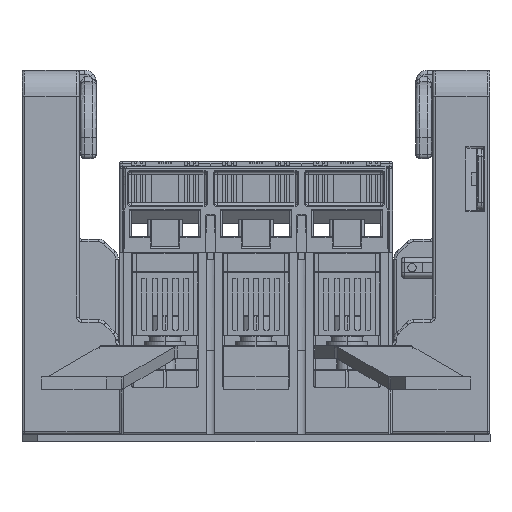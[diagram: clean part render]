
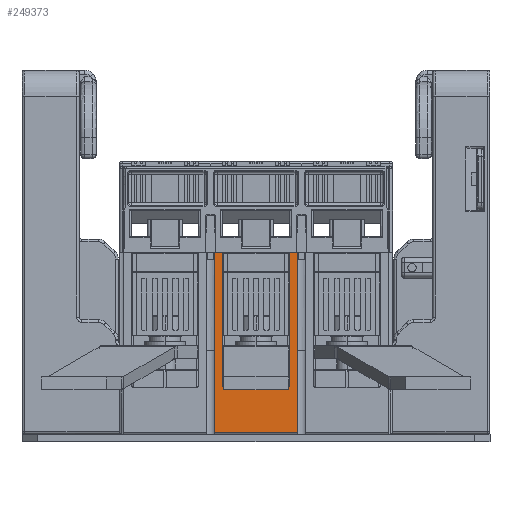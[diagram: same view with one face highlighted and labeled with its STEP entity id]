
A CAD part, front view. The second image highlights one B-rep face of the part: STEP entity #249373.
In plain terms, the highlighted planar face has unit normal (0, -1, 0).
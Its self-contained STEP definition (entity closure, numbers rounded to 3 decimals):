
#7811 = CARTESIAN_POINT ( 'NONE',  ( -35.429, -152.525, -52.001 ) ) ;
#10872 = LINE ( 'NONE', #10873, #121028 ) ;
#10873 = CARTESIAN_POINT ( 'NONE',  ( -39.429, -152.525, -0.001 ) ) ;
#10905 = LINE ( 'NONE', #10952, #121012 ) ;
#10912 = DIRECTION ( 'NONE',  ( 0., 0., 1. ) ) ;
#10920 = LINE ( 'NONE', #10923, #121031 ) ;
#10923 = CARTESIAN_POINT ( 'NONE',  ( -10.429, -152.525, -0.001 ) ) ;
#10925 = DIRECTION ( 'NONE',  ( 1., 0., 0. ) ) ;
#10945 = LINE ( 'NONE', #10948, #121036 ) ;
#10948 = CARTESIAN_POINT ( 'NONE',  ( -75.929, -152.525, -0.001 ) ) ;
#10950 = DIRECTION ( 'NONE',  ( -1., 0., 0. ) ) ;
#10952 = CARTESIAN_POINT ( 'NONE',  ( -10.429, -152.525, -0.001 ) ) ;
#10956 = DIRECTION ( 'NONE',  ( 0., 0., -1. ) ) ;
#10957 = LINE ( 'NONE', #10959, #121038 ) ;
#10959 = CARTESIAN_POINT ( 'NONE',  ( -36.429, -152.525, -0.001 ) ) ;
#10960 = DIRECTION ( 'NONE',  ( 0., 0., -1. ) ) ;
#10961 = LINE ( 'NONE', #10963, #121039 ) ;
#10963 = CARTESIAN_POINT ( 'NONE',  ( -10.429, -152.525, -69.501 ) ) ;
#10964 = DIRECTION ( 'NONE',  ( -1., 0., 0. ) ) ;
#10966 = LINE ( 'NONE', #10967, #121040 ) ;
#10967 = CARTESIAN_POINT ( 'NONE',  ( -7.429, -152.525, -0.001 ) ) ;
#10968 = DIRECTION ( 'NONE',  ( 0., 0., 1. ) ) ;
#46725 = EDGE_LOOP ( 'NONE', ( #50097, #50102, #50106, #50109, #50112, #50118, #50123, #50126, #50133, #50139 ) ) ;
#50097 = ORIENTED_EDGE ( 'NONE', *, *, #143275, .T. ) ;
#50102 = ORIENTED_EDGE ( 'NONE', *, *, #143277, .T. ) ;
#50106 = ORIENTED_EDGE ( 'NONE', *, *, #141285, .F. ) ;
#50109 = ORIENTED_EDGE ( 'NONE', *, *, #141545, .F. ) ;
#50112 = ORIENTED_EDGE ( 'NONE', *, *, #141454, .F. ) ;
#50118 = ORIENTED_EDGE ( 'NONE', *, *, #143279, .F. ) ;
#50123 = ORIENTED_EDGE ( 'NONE', *, *, #143265, .F. ) ;
#50126 = ORIENTED_EDGE ( 'NONE', *, *, #143261, .F. ) ;
#50133 = ORIENTED_EDGE ( 'NONE', *, *, #143280, .F. ) ;
#50139 = ORIENTED_EDGE ( 'NONE', *, *, #143283, .T. ) ;
#50699 = PLANE ( 'NONE',  #56333 ) ;
#50802 = FACE_OUTER_BOUND ( 'NONE', #46725, .T. ) ;
#50886 = CARTESIAN_POINT ( 'NONE',  ( -10.429, -152.525, -0.001 ) ) ;
#50890 = DIRECTION ( 'NONE',  ( 0., 1., 0. ) ) ;
#50895 = DIRECTION ( 'NONE',  ( -1., 0., 0. ) ) ;
#56333 = AXIS2_PLACEMENT_3D ( 'NONE', #50886, #50890, #50895 ) ;
#80876 = VERTEX_POINT ( 'NONE', #235883 ) ;
#81668 = VERTEX_POINT ( 'NONE', #155503 ) ;
#83273 = VERTEX_POINT ( 'NONE', #7811 ) ;
#85195 = VERTEX_POINT ( 'NONE', #126493 ) ;
#101503 = VERTEX_POINT ( 'NONE', #209816 ) ;
#101555 = VERTEX_POINT ( 'NONE', #207483 ) ;
#101695 = VERTEX_POINT ( 'NONE', #208086 ) ;
#102189 = VERTEX_POINT ( 'NONE', #204703 ) ;
#102373 = VERTEX_POINT ( 'NONE', #205268 ) ;
#102464 = VERTEX_POINT ( 'NONE', #205559 ) ;
#120134 = CIRCLE ( 'NONE', #120140, 1. ) ;
#120140 = AXIS2_PLACEMENT_3D ( 'NONE', #211483, #211486, #211489 ) ;
#120209 = CIRCLE ( 'NONE', #120213, 1. ) ;
#120213 = AXIS2_PLACEMENT_3D ( 'NONE', #211896, #211897, #211899 ) ;
#120234 = VECTOR ( 'NONE', #212118, 1000. ) ;
#121012 = VECTOR ( 'NONE', #10956, 1000. ) ;
#121028 = VECTOR ( 'NONE', #10912, 1000. ) ;
#121031 = VECTOR ( 'NONE', #10925, 1000. ) ;
#121036 = VECTOR ( 'NONE', #10950, 1000. ) ;
#121038 = VECTOR ( 'NONE', #10960, 1000. ) ;
#121039 = VECTOR ( 'NONE', #10964, 1000. ) ;
#121040 = VECTOR ( 'NONE', #10968, 1000. ) ;
#126493 = CARTESIAN_POINT ( 'NONE',  ( -10.429, -152.525, -51.001 ) ) ;
#141285 = EDGE_CURVE ( 'NONE', #80876, #85195, #120134, .T. ) ;
#141454 = EDGE_CURVE ( 'NONE', #81668, #83273, #120209, .T. ) ;
#141545 = EDGE_CURVE ( 'NONE', #83273, #80876, #212047, .T. ) ;
#143261 = EDGE_CURVE ( 'NONE', #102464, #102373, #10872, .T. ) ;
#143265 = EDGE_CURVE ( 'NONE', #102373, #101695, #10920, .T. ) ;
#143275 = EDGE_CURVE ( 'NONE', #101555, #101503, #10945, .T. ) ;
#143277 = EDGE_CURVE ( 'NONE', #101503, #85195, #10905, .T. ) ;
#143279 = EDGE_CURVE ( 'NONE', #101695, #81668, #10957, .T. ) ;
#143280 = EDGE_CURVE ( 'NONE', #102189, #102464, #10961, .T. ) ;
#143283 = EDGE_CURVE ( 'NONE', #102189, #101555, #10966, .T. ) ;
#155503 = CARTESIAN_POINT ( 'NONE',  ( -36.429, -152.525, -51.001 ) ) ;
#204703 = CARTESIAN_POINT ( 'NONE',  ( -7.429, -152.525, -69.501 ) ) ;
#205268 = CARTESIAN_POINT ( 'NONE',  ( -39.429, -152.525, -0.001 ) ) ;
#205559 = CARTESIAN_POINT ( 'NONE',  ( -39.429, -152.525, -69.501 ) ) ;
#207483 = CARTESIAN_POINT ( 'NONE',  ( -7.429, -152.525, -0.001 ) ) ;
#208086 = CARTESIAN_POINT ( 'NONE',  ( -36.429, -152.525, -0.001 ) ) ;
#209816 = CARTESIAN_POINT ( 'NONE',  ( -10.429, -152.525, -0.001 ) ) ;
#211483 = CARTESIAN_POINT ( 'NONE',  ( -11.429, -152.525, -51.001 ) ) ;
#211486 = DIRECTION ( 'NONE',  ( 0., -1., 0. ) ) ;
#211489 = DIRECTION ( 'NONE',  ( -1., 0., 0. ) ) ;
#211896 = CARTESIAN_POINT ( 'NONE',  ( -35.429, -152.525, -51.001 ) ) ;
#211897 = DIRECTION ( 'NONE',  ( 0., -1., 0. ) ) ;
#211899 = DIRECTION ( 'NONE',  ( -1., 0., 0. ) ) ;
#212047 = LINE ( 'NONE', #212113, #120234 ) ;
#212113 = CARTESIAN_POINT ( 'NONE',  ( -10.429, -152.525, -52.001 ) ) ;
#212118 = DIRECTION ( 'NONE',  ( 1., 0., 0. ) ) ;
#235883 = CARTESIAN_POINT ( 'NONE',  ( -11.429, -152.525, -52.001 ) ) ;
#249373 = ADVANCED_FACE ( 'NONE', ( #50802 ), #50699, .F. ) ;
